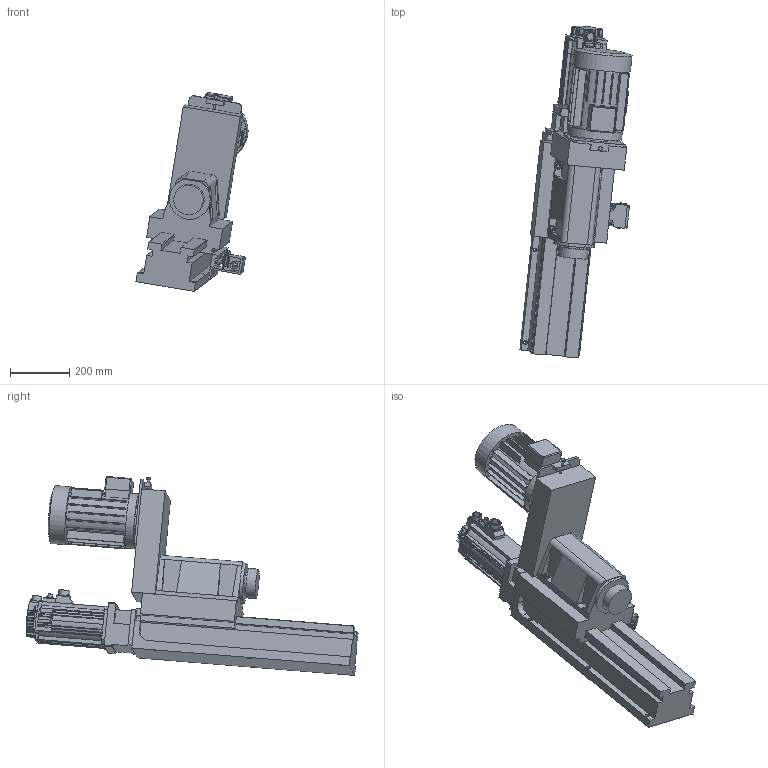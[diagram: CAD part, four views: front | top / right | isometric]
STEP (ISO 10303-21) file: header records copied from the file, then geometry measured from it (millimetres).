
FILE_DESCRIPTION((''),'2;1');
FILE_NAME('C:\VaultWork\Zeichnungen\Maßblätter\BF4\BF01375-0-0 Maßblatt BF4-H200-me-400-EE.stp','2009-04-17T10:45:33',('Test'),(''),'Autodesk Inventor 2008','Autodesk Inventor 2008','');
FILE_SCHEMA(('AUTOMOTIVE_DESIGN { 1 0 10303 214 1 1 1 1 }'));
Length unit declared in the file: millimetre
Products named in the file (1): BF01375-0-0 Maßblatt BF4-H200-me-400-EE
Bounding box: 378.66 x 1120.63 x 671.33 mm (x, y, z)
Volume: 45943624.9 mm3; surface area: 1939658.5 mm2
Topology: 1 solids, 6 shells, 1182 faces, 3059 edges, 1985 vertices
Faces by surface type: plane 800, cylinder 305, bspline 32, cone 29, torus 9, sphere 7
Full cylindrical faces by diameter (mm): 3.8 x3, 4 x2, 4.917 x3, 5.9 x2, 6 x3, 6.6 x2, 8 x6, 9.98 x3, 10 x3, 11.63 x1, 20 x2, 31 x1, 69.3 x1, 100 x2, 158 x1, 160 x1, 185 x1, 196 x1
Entity records: 36912 total; most frequent: CARTESIAN_POINT 6818, DIRECTION 5976, ORIENTED_EDGE 5882, EDGE_CURVE 2941, VECTOR 2120, LINE 2120, VERTEX_POINT 1946, AXIS2_PLACEMENT_3D 1928
